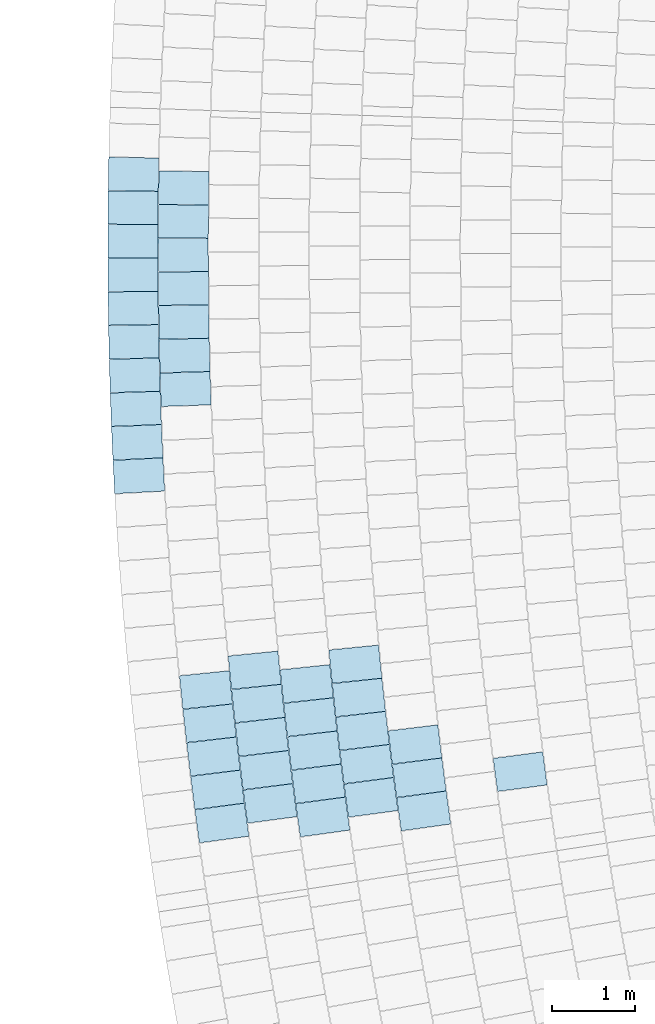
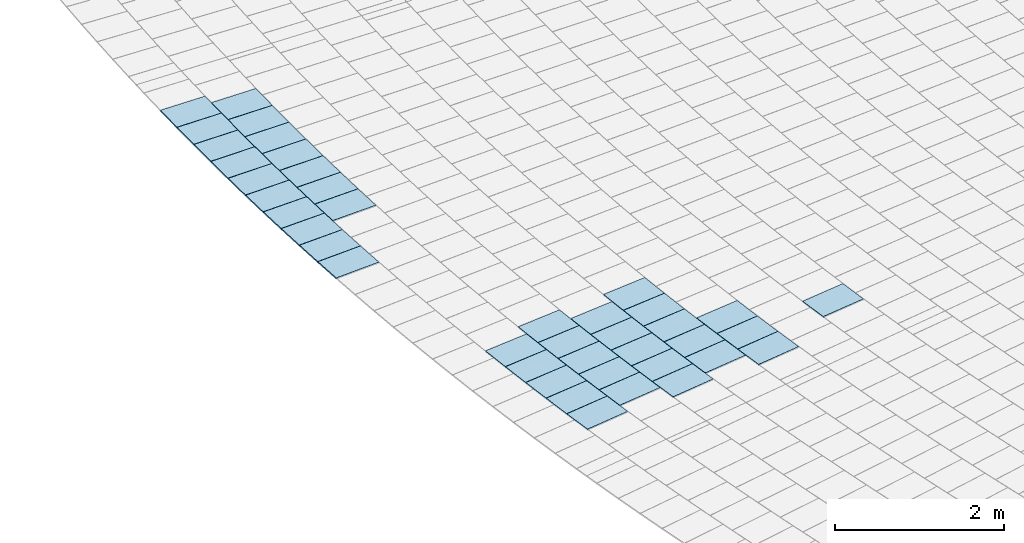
# One storey, part 78 of 438: 41 slabs.
"""IFC2X3 building model written with IfcOpenShell, lengths in millimetres."""

from ifc_helpers import new_model, entity, si_unit, converted_unit, derived_unit, direction, frame, origin, place, context, subcontext, project, spatial, polyline, outline, extrude, material, layer, layer_set, layer_usage, type_object, element, save


model = new_model("IFC2X3")

# Units and contexts
model_context = context("Model", 3, precision=0.01, world=origin(), true_north=direction((6.123031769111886e-17, 1.0)))
body_context = subcontext(model_context, "Body", "Model", "MODEL_VIEW")
ifc_project = project(units=[si_unit("LENGTHUNIT", "METRE", prefix="MILLI"), si_unit("AREAUNIT", "SQUARE_METRE"), si_unit("VOLUMEUNIT", "CUBIC_METRE"), converted_unit("PLANEANGLEUNIT", "DEGREE", entity("IfcRatioMeasure", 0.017453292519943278), si_unit("PLANEANGLEUNIT", "RADIAN"), dimensions=[0, 0, 0, 0, 0, 0, 0]), si_unit("MASSUNIT", "GRAM", prefix="KILO"), derived_unit("MASSDENSITYUNIT", [(si_unit("MASSUNIT", "GRAM", prefix="KILO"), 1), (si_unit("LENGTHUNIT", "METRE"), -3)]), derived_unit("MOMENTOFINERTIAUNIT", [(si_unit("LENGTHUNIT", "METRE"), 4)]), si_unit("TIMEUNIT", "SECOND"), si_unit("FREQUENCYUNIT", "HERTZ"), si_unit("THERMODYNAMICTEMPERATUREUNIT", "DEGREE_CELSIUS"), derived_unit("THERMALTRANSMITTANCEUNIT", [(si_unit("MASSUNIT", "GRAM", prefix="KILO"), 1), (si_unit("THERMODYNAMICTEMPERATUREUNIT", "KELVIN"), -1), (si_unit("TIMEUNIT", "SECOND"), -3)]), derived_unit("THERMALCONDUCTANCEUNIT", [(si_unit("MASSUNIT", "GRAM", prefix="KILO"), 1), (si_unit("LENGTHUNIT", "METRE"), 1), (si_unit("THERMODYNAMICTEMPERATUREUNIT", "KELVIN"), -1), (si_unit("TIMEUNIT", "SECOND"), -3)]), derived_unit("VOLUMETRICFLOWRATEUNIT", [(si_unit("LENGTHUNIT", "METRE"), 3), (si_unit("TIMEUNIT", "SECOND"), -1)]), derived_unit("MASSFLOWRATEUNIT", [(si_unit("MASSUNIT", "GRAM", prefix="KILO"), 1), (si_unit("TIMEUNIT", "SECOND"), -1)]), derived_unit("ROTATIONALFREQUENCYUNIT", [(si_unit("TIMEUNIT", "SECOND"), -1)]), si_unit("ELECTRICCURRENTUNIT", "AMPERE"), si_unit("ELECTRICVOLTAGEUNIT", "VOLT"), si_unit("POWERUNIT", "WATT"), converted_unit("FORCEUNIT", "KIP", entity("IfcRatioMeasure", 2.088543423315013e-05), si_unit("FORCEUNIT", "NEWTON"), dimensions=[1, 1, -2, 0, 0, 0, 0]), si_unit("ILLUMINANCEUNIT", "LUX"), si_unit("LUMINOUSFLUXUNIT", "LUMEN"), si_unit("LUMINOUSINTENSITYUNIT", "CANDELA"), derived_unit("USERDEFINED", [(si_unit("MASSUNIT", "GRAM", prefix="KILO"), -1), (si_unit("LENGTHUNIT", "METRE"), -2), (si_unit("TIMEUNIT", "SECOND"), 3), (si_unit("LUMINOUSFLUXUNIT", "LUMEN"), 1)]), derived_unit("USERDEFINED", [(si_unit("MASSUNIT", "GRAM", prefix="KILO"), 1), (si_unit("LENGTHUNIT", "METRE"), 3), (si_unit("TIMEUNIT", "SECOND"), -3), (si_unit("ELECTRICCURRENTUNIT", "AMPERE"), -2)]), derived_unit("USERDEFINED", [(si_unit("LENGTHUNIT", "METRE"), 2), (si_unit("TIMEUNIT", "SECOND"), -2)]), derived_unit("SOUNDPOWERUNIT", [(si_unit("MASSUNIT", "GRAM", prefix="KILO"), 1), (si_unit("LENGTHUNIT", "METRE"), 2), (si_unit("TIMEUNIT", "SECOND"), -3)]), derived_unit("SOUNDPRESSUREUNIT", [(si_unit("MASSUNIT", "GRAM", prefix="KILO"), 1), (si_unit("LENGTHUNIT", "METRE"), -1), (si_unit("TIMEUNIT", "SECOND"), -2)]), derived_unit("LINEARVELOCITYUNIT", [(si_unit("LENGTHUNIT", "METRE"), 1), (si_unit("TIMEUNIT", "SECOND"), -1)]), si_unit("PRESSUREUNIT", "PASCAL"), derived_unit("USERDEFINED", [(si_unit("LENGTHUNIT", "METRE"), -2), (si_unit("MASSUNIT", "GRAM", prefix="KILO"), 1), (si_unit("TIMEUNIT", "SECOND"), -2)]), derived_unit("LINEARFORCEUNIT", [(si_unit("MASSUNIT", "GRAM", prefix="KILO"), 1), (si_unit("LENGTHUNIT", "METRE"), 1), (si_unit("TIMEUNIT", "SECOND"), -2), (si_unit("LENGTHUNIT", "METRE"), -1)]), derived_unit("PLANARFORCEUNIT", [(si_unit("MASSUNIT", "GRAM", prefix="KILO"), 1), (si_unit("LENGTHUNIT", "METRE"), 1), (si_unit("TIMEUNIT", "SECOND"), -2), (si_unit("LENGTHUNIT", "METRE"), -2)]), derived_unit("SPECIFICHEATCAPACITYUNIT", [(si_unit("LENGTHUNIT", "METRE"), 2), (si_unit("TIMEUNIT", "SECOND"), -2), (si_unit("THERMODYNAMICTEMPERATUREUNIT", "KELVIN"), -1)]), derived_unit("VAPORPERMEABILITYUNIT", [(si_unit("TIMEUNIT", "SECOND"), 1), (si_unit("LENGTHUNIT", "METRE"), -1)]), derived_unit("DYNAMICVISCOSITYUNIT", [(si_unit("MASSUNIT", "GRAM", prefix="KILO"), 1), (si_unit("LENGTHUNIT", "METRE"), -1), (si_unit("TIMEUNIT", "SECOND"), -1)]), derived_unit("THERMALEXPANSIONCOEFFICIENTUNIT", [(si_unit("THERMODYNAMICTEMPERATUREUNIT", "KELVIN"), -1)])], contexts=[model_context])

# Site, building, storey
site_placement = place(None, frame((0.0, 0.0, 0.0), z_axis=(0.0, 0.0, 1.0), x_axis=(0.8191520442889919, 0.5735764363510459, 0.0)))
site = spatial("IfcSite", under=ifc_project, at=site_placement, Name="Default", CompositionType="ELEMENT")
building_placement = place(site_placement, origin())
building = spatial("IfcBuilding", under=site, at=building_placement, CompositionType="ELEMENT")
storey_placement = place(building_placement, origin())
storey = spatial("IfcBuildingStorey", under=building, at=storey_placement, Name="PLAN", CompositionType="ELEMENT", Elevation=0.0)

# Slabs
ifc_material = material(Name="Paint-01")
ifc_layer = layer(ifc_material, 20.00000000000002)
ifc_layer_set = layer_set([ifc_layer], Name="Floor:Slab-179:1000")
ifc_layer_usage = layer_usage(ifc_layer_set, "AXIS3", "POSITIVE", 0.0)
slab_type = type_object("IfcSlabType", Name="Floor:Slab-179:1000", PredefinedType="FLOOR", material=ifc_layer_set)
slab_1_placement = place(storey_placement, origin())
element("IfcSlab", 1, at=slab_1_placement, inside=storey, type_object=slab_type, material=ifc_layer_usage, Name="Floor:Slab-179:1000", ObjectType="Floor:Slab-179:1000", PredefinedType="FLOOR", context=body_context, shape_type="SweptSolid", body=[
    extrude(outline(polyline([(-299.99999762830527, -200.0000029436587), (300.0, -200.00000294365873), (299.999997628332, 200.00000294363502), (-300.0, 200.00000294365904), (-299.99999762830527, -200.0000029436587)])), frame((-82832.24058189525, -45851.049284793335, 520.0), z_axis=(0.0, 0.0, -1.0), x_axis=(0.8872912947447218, -0.4612094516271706, 0.0)), (0.0, 0.0, 1.0), 19.999999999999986),
])
slab_2_placement = place(storey_placement, origin())
element("IfcSlab", 2, at=slab_2_placement, inside=storey, type_object=slab_type, material=ifc_layer_usage, Name="Floor:Slab-179:1000", ObjectType="Floor:Slab-179:1000", PredefinedType="FLOOR", context=body_context, shape_type="SweptSolid", body=[
    extrude(outline(polyline([(-299.9999976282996, -200.0000029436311), (300.0, -200.00000294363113), (299.99999762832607, 200.00000294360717), (-300.0, 200.00000294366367), (-299.9999976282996, -200.0000029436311)])), frame((-83677.9896801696, -44859.880920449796, 520.0), z_axis=(0.0, 0.0, -1.0), x_axis=(0.8826521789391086, -0.4700267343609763, 0.0)), (0.0, 0.0, 1.0), 19.99999999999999),
])
slab_3_placement = place(storey_placement, origin())
element("IfcSlab", 3, at=slab_3_placement, inside=storey, type_object=slab_type, material=ifc_layer_usage, Name="Floor:Slab-179:1000", ObjectType="Floor:Slab-179:1000", PredefinedType="FLOOR", context=body_context, shape_type="SweptSolid", body=[
    extrude(outline(polyline([(-299.9999976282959, -200.00000294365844), (300.0, -200.0000029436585), (299.9999976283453, 200.00000294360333), (-300.0, 200.0000029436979), (-299.9999976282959, -200.00000294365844)])), frame((-83865.69729030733, -45215.880342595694, 520.0), z_axis=(0.0, 0.0, -1.0), x_axis=(0.8864735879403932, -0.46277918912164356, 0.0)), (0.0, 0.0, 1.0), 20.000000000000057),
])
slab_4_placement = place(storey_placement, origin())
element("IfcSlab", 4, at=slab_4_placement, inside=storey, type_object=slab_type, material=ifc_layer_usage, Name="Floor:Slab-179:1000", ObjectType="Floor:Slab-179:1000", PredefinedType="FLOOR", context=body_context, shape_type="SweptSolid", body=[
    extrude(outline(polyline([(-299.9999976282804, -200.00000294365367), (300.0, -200.00000294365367), (299.9999976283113, 200.00000294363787), (-300.0, 200.00000294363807), (-299.9999976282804, -200.00000294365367)])), frame((-84050.48181631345, -45573.405746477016, 520.0), z_axis=(0.0, 0.0, -1.0), x_axis=(0.8902354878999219, -0.4555005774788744, 0.0)), (0.0, 0.0, 1.0), 19.99999999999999),
])
slab_5_placement = place(storey_placement, origin())
element("IfcSlab", 5, at=slab_5_placement, inside=storey, type_object=slab_type, material=ifc_layer_usage, Name="Floor:Slab-179:1000", ObjectType="Floor:Slab-179:1000", PredefinedType="FLOOR", context=body_context, shape_type="SweptSolid", body=[
    extrude(outline(polyline([(-299.9999976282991, -200.00000294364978), (300.0, -200.00000294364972), (299.99999762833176, 200.00000294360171), (-300.0, 200.00000294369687), (-299.9999976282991, -200.00000294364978)])), frame((-83711.90965953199, -43659.71001154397, 520.0), z_axis=(0.0, 0.0, -1.0), x_axis=(0.872595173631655, -0.4884441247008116, 0.0)), (0.0, 0.0, 1.0), 20.000000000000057),
])
slab_6_placement = place(storey_placement, origin())
element("IfcSlab", 6, at=slab_6_placement, inside=storey, type_object=slab_type, material=ifc_layer_usage, Name="Floor:Slab-179:1000", ObjectType="Floor:Slab-179:1000", PredefinedType="FLOOR", context=body_context, shape_type="SweptSolid", body=[
    extrude(outline(polyline([(-299.9999976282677, -200.0000029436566), (300.0, -200.0000029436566), (299.99999762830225, 200.00000294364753), (-300.0, 200.00000294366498), (-299.9999976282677, -200.0000029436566)])), frame((-83907.0490529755, -44011.656316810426, 520.0), z_axis=(0.0, 0.0, -1.0), x_axis=(0.8765195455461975, -0.48136627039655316, 0.0)), (0.0, 0.0, 1.0), 19.999999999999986),
])
slab_7_placement = place(storey_placement, origin())
element("IfcSlab", 7, at=slab_7_placement, inside=storey, type_object=slab_type, material=ifc_layer_usage, Name="Floor:Slab-179:1000", ObjectType="Floor:Slab-179:1000", PredefinedType="FLOOR", context=body_context, shape_type="SweptSolid", body=[
    extrude(outline(polyline([(-299.9999976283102, -200.00000294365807), (300.0, -200.00000294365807), (299.9999976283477, 200.00000294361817), (-300.0, 200.00000294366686), (-299.9999976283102, -200.00000294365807)])), frame((-84099.33377632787, -44365.17034740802, 520.0), z_axis=(0.0, 0.0, -1.0), x_axis=(0.8803865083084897, -0.4742568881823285, 0.0)), (0.0, 0.0, 1.0), 20.000000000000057),
])
slab_8_placement = place(storey_placement, origin())
element("IfcSlab", 8, at=slab_8_placement, inside=storey, type_object=slab_type, material=ifc_layer_usage, Name="Floor:Slab-179:1000", ObjectType="Floor:Slab-179:1000", PredefinedType="FLOOR", context=body_context, shape_type="SweptSolid", body=[
    extrude(outline(polyline([(-299.99999762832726, -200.00000294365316), (300.0, -200.00000294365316), (299.9999976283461, 200.00000294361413), (-300.0, 200.0000029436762), (-299.99999762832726, -200.00000294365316)])), frame((-84475.28902448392, -45076.80886739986, 520.0), z_axis=(0.0, 0.0, -1.0), x_axis=(0.8879471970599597, -0.4599454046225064, 0.0)), (0.0, 0.0, 1.0), 20.000000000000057),
])
slab_9_placement = place(storey_placement, origin())
element("IfcSlab", 9, at=slab_9_placement, inside=storey, type_object=slab_type, material=ifc_layer_usage, Name="Floor:Slab-179:1000", ObjectType="Floor:Slab-179:1000", PredefinedType="FLOOR", context=body_context, shape_type="SweptSolid", body=[
    extrude(outline(polyline([(-299.9999976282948, -200.00000294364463), (300.0, -200.0000029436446), (299.9999976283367, 200.00000294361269), (-300.0, 200.00000294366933), (-299.9999976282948, -200.00000294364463)])), frame((-84288.75123557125, -44720.22894932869, 520.0), z_axis=(0.0, 0.0, -1.0), x_axis=(0.8841958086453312, -0.46711644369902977, 0.0)), (0.0, 0.0, 1.0), 20.000000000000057),
])
slab_10_placement = place(storey_placement, origin())
element("IfcSlab", 10, at=slab_10_placement, inside=storey, type_object=slab_type, material=ifc_layer_usage, Name="Floor:Slab-179:1000", ObjectType="Floor:Slab-179:1000", PredefinedType="FLOOR", context=body_context, shape_type="SweptSolid", body=[
    extrude(outline(polyline([(-299.9999976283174, -200.00000294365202), (300.0, -200.00000294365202), (299.9999976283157, 200.00000294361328), (-300.0, 200.000002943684), (-299.9999976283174, -200.00000294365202)])), frame((-84325.8040085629, -43518.42665008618, 520.0), z_axis=(0.0, 0.0, -1.0), x_axis=(0.8743033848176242, -0.485379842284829, 0.0)), (0.0, 0.0, 1.0), 20.000000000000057),
])
slab_11_placement = place(storey_placement, origin())
element("IfcSlab", 11, at=slab_11_placement, inside=storey, type_object=slab_type, material=ifc_layer_usage, Name="Floor:Slab-179:1000", ObjectType="Floor:Slab-179:1000", PredefinedType="FLOOR", context=body_context, shape_type="SweptSolid", body=[
    extrude(outline(polyline([(-299.99999762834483, -200.00000294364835), (300.0, -200.00000294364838), (299.9999976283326, 200.00000294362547), (-300.0, 200.00000294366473), (-299.99999762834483, -200.00000294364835)])), frame((-84710.79204723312, -44225.15285962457, 520.0), z_axis=(0.0, 0.0, -1.0), x_axis=(0.8819526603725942, -0.47133799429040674, 0.0)), (0.0, 0.0, 1.0), 20.000000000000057),
])
slab_12_placement = place(storey_placement, origin())
element("IfcSlab", 12, at=slab_12_placement, inside=storey, type_object=slab_type, material=ifc_layer_usage, Name="Floor:Slab-179:1000", ObjectType="Floor:Slab-179:1000", PredefinedType="FLOOR", context=body_context, shape_type="SweptSolid", body=[
    extrude(outline(polyline([(-299.9999976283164, -200.00000294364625), (300.0, -200.00000294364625), (299.99999762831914, 200.00000294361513), (-300.0, 200.00000294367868), (-299.9999976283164, -200.00000294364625)])), frame((-84519.71063277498, -43871.020240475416, 520.0), z_axis=(0.0, 0.0, -1.0), x_axis=(0.878156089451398, -0.47837420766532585, 0.0)), (0.0, 0.0, 1.0), 20.000000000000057),
])
slab_13_placement = place(storey_placement, origin())
element("IfcSlab", 13, at=slab_13_placement, inside=storey, type_object=slab_type, material=ifc_layer_usage, Name="Floor:Slab-179:1000", ObjectType="Floor:Slab-179:1000", PredefinedType="FLOOR", context=body_context, shape_type="SweptSolid", body=[
    extrude(outline(polyline([(-299.99999762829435, -200.00000294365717), (300.0, -200.0000029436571), (299.999997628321, 200.00000294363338), (-300.0, 200.00000294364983), (-299.99999762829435, -200.00000294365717)])), frame((-84899.0360375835, -44580.801870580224, 520.0), z_axis=(0.0, 0.0, -1.0), x_axis=(0.8856928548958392, -0.46427165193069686, 0.0)), (0.0, 0.0, 1.0), 20.000000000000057),
])
slab_14_placement = place(storey_placement, origin())
element("IfcSlab", 14, at=slab_14_placement, inside=storey, type_object=slab_type, material=ifc_layer_usage, Name="Floor:Slab-179:1000", ObjectType="Floor:Slab-179:1000", PredefinedType="FLOOR", context=body_context, shape_type="SweptSolid", body=[
    extrude(outline(polyline([(-299.9999976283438, -200.00000294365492), (300.0, -200.00000294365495), (299.9999976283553, 200.0000029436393), (-300.0, 200.00000294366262), (-299.9999976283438, -200.00000294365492)])), frame((-85084.43057084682, -44937.944539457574, 520.0), z_axis=(0.0, 0.0, -1.0), x_axis=(0.8893764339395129, -0.4571756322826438, 0.0)), (0.0, 0.0, 1.0), 20.000000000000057),
])
slab_15_placement = place(storey_placement, origin())
element("IfcSlab", 15, at=slab_15_placement, inside=storey, type_object=slab_type, material=ifc_layer_usage, Name="Floor:Slab-179:1000", ObjectType="Floor:Slab-179:1000", PredefinedType="FLOOR", context=body_context, shape_type="SweptSolid", body=[
    extrude(outline(polyline([(-299.99999762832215, -200.0000029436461), (300.0, -200.00000294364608), (299.99999762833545, 200.00000294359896), (-300.0, 200.00000294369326), (-299.99999762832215, -200.0000029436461)])), frame((-84743.67200745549, -43025.726866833, 520.0), z_axis=(0.0, 0.0, -1.0), x_axis=(0.8721224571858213, -0.48928766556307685, 0.0)), (0.0, 0.0, 1.0), 20.000000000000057),
])
slab_16_placement = place(storey_placement, origin())
element("IfcSlab", 16, at=slab_16_placement, inside=storey, type_object=slab_type, material=ifc_layer_usage, Name="Floor:Slab-179:1000", ObjectType="Floor:Slab-179:1000", PredefinedType="FLOOR", context=body_context, shape_type="SweptSolid", body=[
    extrude(outline(polyline([(-299.9999976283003, -200.00000294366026), (300.0, -200.00000294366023), (299.9999976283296, 200.00000294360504), (-300.0, 200.00000294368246), (-299.9999976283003, -200.00000294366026)])), frame((-85131.8587765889, -43730.63607929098, 520.0), z_axis=(0.0, 0.0, -1.0), x_axis=(0.8797436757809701, -0.4754482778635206, 0.0)), (0.0, 0.0, 1.0), 19.999999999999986),
])
slab_17_placement = place(storey_placement, origin())
element("IfcSlab", 17, at=slab_17_placement, inside=storey, type_object=slab_type, material=ifc_layer_usage, Name="Floor:Slab-179:1000", ObjectType="Floor:Slab-179:1000", PredefinedType="FLOOR", context=body_context, shape_type="SweptSolid", body=[
    extrude(outline(polyline([(-299.9999976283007, -200.00000294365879), (300.0, -200.00000294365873), (299.9999976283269, 200.00000294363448), (-300.0, 200.00000294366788), (-299.9999976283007, -200.00000294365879)])), frame((-84939.15753031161, -43377.414835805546, 520.0), z_axis=(0.0, 0.0, -1.0), x_axis=(0.875960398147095, -0.4823830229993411, 0.0)), (0.0, 0.0, 1.0), 20.000000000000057),
])
slab_18_placement = place(storey_placement, origin())
element("IfcSlab", 18, at=slab_18_placement, inside=storey, type_object=slab_type, material=ifc_layer_usage, Name="Floor:Slab-179:1000", ObjectType="Floor:Slab-179:1000", PredefinedType="FLOOR", context=body_context, shape_type="SweptSolid", body=[
    extrude(outline(polyline([(-299.9999976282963, -200.0000029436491), (300.0, -200.00000294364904), (299.99999762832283, 200.00000294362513), (-300.0, 200.00000294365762), (-299.9999976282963, -200.0000029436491)])), frame((-85321.76372098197, -44085.3685549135, 520.0), z_axis=(0.0, 0.0, -1.0), x_axis=(0.883472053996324, -0.46848386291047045, 0.0)), (0.0, 0.0, 1.0), 19.999999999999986),
])
slab_19_placement = place(storey_placement, origin())
element("IfcSlab", 19, at=slab_19_placement, inside=storey, type_object=slab_type, material=ifc_layer_usage, Name="Floor:Slab-179:1000", ObjectType="Floor:Slab-179:1000", PredefinedType="FLOOR", context=body_context, shape_type="SweptSolid", body=[
    extrude(outline(polyline([(-299.99999762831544, -200.0000029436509), (300.0, -200.0000029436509), (299.99999762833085, 200.00000294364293), (-300.0, 200.00000294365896), (-299.99999762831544, -200.0000029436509)])), frame((-85508.86051268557, -44441.59012599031, 520.0), z_axis=(0.0, 0.0, -1.0), x_axis=(0.8871453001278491, -0.46149021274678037, 0.0)), (0.0, 0.0, 1.0), 20.000000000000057),
])
slab_20_placement = place(storey_placement, origin())
element("IfcSlab", 20, at=slab_20_placement, inside=storey, type_object=slab_type, material=ifc_layer_usage, Name="Floor:Slab-179:1000", ObjectType="Floor:Slab-179:1000", PredefinedType="FLOOR", context=body_context, shape_type="SweptSolid", body=[
    extrude(outline(polyline([(-300.0, -200.0000029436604), (299.9999976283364, -200.0000029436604), (300.0, 200.0000029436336), (-299.999997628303, 200.00000294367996), (-300.0, -200.0000029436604)])), frame((-83487.1786597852, -39784.695662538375, 520.0), z_axis=(0.0, 0.0, -1.0), x_axis=(0.8375060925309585, -0.5464279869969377, 0.0)), (0.0, 0.0, 1.0), 20.000000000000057),
])
slab_21_placement = place(storey_placement, origin())
element("IfcSlab", 21, at=slab_21_placement, inside=storey, type_object=slab_type, material=ifc_layer_usage, Name="Floor:Slab-179:1000", ObjectType="Floor:Slab-179:1000", PredefinedType="FLOOR", context=body_context, shape_type="SweptSolid", body=[
    extrude(outline(polyline([(-300.0, -200.0000029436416), (299.9999976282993, -200.00000294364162), (300.0, 200.00000294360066), (-299.99999762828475, 200.00000294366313), (-300.0, -200.0000029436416)])), frame((-83042.23618881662, -39114.23121845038, 520.0), z_axis=(0.0, 0.0, -1.0), x_axis=(0.8288731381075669, -0.5594366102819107, 0.0)), (0.0, 0.0, 1.0), 19.99999999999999),
])
slab_22_placement = place(storey_placement, origin())
element("IfcSlab", 22, at=slab_22_placement, inside=storey, type_object=slab_type, material=ifc_layer_usage, Name="Floor:Slab-179:1000", ObjectType="Floor:Slab-179:1000", PredefinedType="FLOOR", context=body_context, shape_type="SweptSolid", body=[
    extrude(outline(polyline([(-300.0, -200.0000029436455), (299.999997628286, -200.00000294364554), (300.0, 200.0000029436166), (-299.9999976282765, 200.00000294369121), (-300.0, -200.0000029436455)])), frame((-83266.01590293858, -39448.595090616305, 520.0), z_axis=(0.0, 0.0, -1.0), x_axis=(0.8332150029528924, -0.5529491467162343, 0.0)), (0.0, 0.0, 1.0), 19.999999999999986),
])
slab_23_placement = place(storey_placement, origin())
element("IfcSlab", 23, at=slab_23_placement, inside=storey, type_object=slab_type, material=ifc_layer_usage, Name="Floor:Slab-179:1000", ObjectType="Floor:Slab-179:1000", PredefinedType="FLOOR", context=body_context, shape_type="SweptSolid", body=[
    extrude(outline(polyline([(-300.0, -200.00000294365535), (299.9999976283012, -200.00000294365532), (300.0, 200.0000029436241), (-299.9999976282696, 200.00000294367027), (-300.0, -200.00000294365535)])), frame((-82586.88059501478, -38450.79496947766, 520.0), z_axis=(0.0, 0.0, -1.0), x_axis=(0.8200381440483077, -0.5723088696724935, 0.0)), (0.0, 0.0, 1.0), 20.000000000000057),
])
slab_24_placement = place(storey_placement, origin())
element("IfcSlab", 24, at=slab_24_placement, inside=storey, type_object=slab_type, material=ifc_layer_usage, Name="Floor:Slab-179:1000", ObjectType="Floor:Slab-179:1000", PredefinedType="FLOOR", context=body_context, shape_type="SweptSolid", body=[
    extrude(outline(polyline([(-300.0, -200.00000294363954), (299.99999762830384, -200.00000294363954), (300.0, 200.000002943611), (-299.9999976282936, 200.00000294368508), (-300.0, -200.00000294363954)])), frame((-82815.85315432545, -38781.62442183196, 520.0), z_axis=(0.0, 0.0, -1.0), x_axis=(0.8244807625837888, -0.5658899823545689, 0.0)), (0.0, 0.0, 1.0), 20.000000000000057),
])
slab_25_placement = place(storey_placement, origin())
element("IfcSlab", 25, at=slab_25_placement, inside=storey, type_object=slab_type, material=ifc_layer_usage, Name="Floor:Slab-179:1000", ObjectType="Floor:Slab-179:1000", PredefinedType="FLOOR", context=body_context, shape_type="SweptSolid", body=[
    extrude(outline(polyline([(-300.0, -200.00000294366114), (299.99999762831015, -200.00000294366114), (300.0, 200.00000294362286), (-299.99999762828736, 200.00000294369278), (-300.0, -200.00000294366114)])), frame((-82121.22287229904, -37794.54862965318, 520.0), z_axis=(0.0, 0.0, -1.0), x_axis=(0.8110032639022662, -0.5850416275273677, 0.0)), (0.0, 0.0, 1.0), 20.000000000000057),
])
slab_26_placement = place(storey_placement, origin())
element("IfcSlab", 26, at=slab_26_placement, inside=storey, type_object=slab_type, material=ifc_layer_usage, Name="Floor:Slab-179:1000", ObjectType="Floor:Slab-179:1000", PredefinedType="FLOOR", context=body_context, shape_type="SweptSolid", body=[
    extrude(outline(polyline([(-300.0, -200.00000294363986), (299.9999976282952, -200.00000294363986), (300.0, 200.00000294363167), (-299.99999762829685, 200.00000294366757), (-300.0, -200.00000294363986)])), frame((-82355.33246423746, -38121.763021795, 520.0), z_axis=(0.0, 0.0, -1.0), x_axis=(0.8155455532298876, -0.5786928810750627, 0.0)), (0.0, 0.0, 1.0), 19.99999999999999),
])
slab_27_placement = place(storey_placement, origin())
element("IfcSlab", 27, at=slab_27_placement, inside=storey, type_object=slab_type, material=ifc_layer_usage, Name="Floor:Slab-179:1000", ObjectType="Floor:Slab-179:1000", PredefinedType="FLOOR", context=body_context, shape_type="SweptSolid", body=[
    extrude(outline(polyline([(-299.9999976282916, -200.00000294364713), (300.0, -200.00000294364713), (299.9999976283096, 200.00000294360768), (-300.0, 200.00000294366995), (-299.9999976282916, -200.00000294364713)])), frame((-85551.98852332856, -43236.66314103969, 520.0), z_axis=(0.0, 0.0, -1.0), x_axis=(0.8775683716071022, -0.4794515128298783, 0.0)), (0.0, 0.0, 1.0), 20.000000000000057),
])
slab_28_placement = place(storey_placement, origin())
element("IfcSlab", 28, at=slab_28_placement, inside=storey, type_object=slab_type, material=ifc_layer_usage, Name="Floor:Slab-179:1000", ObjectType="Floor:Slab-179:1000", PredefinedType="FLOOR", context=body_context, shape_type="SweptSolid", body=[
    extrude(outline(polyline([(-299.9999976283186, -200.0000029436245), (300.0, -200.00000294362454), (299.99999762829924, 200.00000294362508), (-300.0, 200.00000294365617), (-299.9999976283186, -200.0000029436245)])), frame((-85743.51089867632, -43590.49324038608, 520.0), z_axis=(0.0, 0.0, -1.0), x_axis=(0.8812843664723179, -0.47258635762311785, 0.0)), (0.0, 0.0, 1.0), 19.99999999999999),
])
slab_29_placement = place(storey_placement, origin())
element("IfcSlab", 29, at=slab_29_placement, inside=storey, type_object=slab_type, material=ifc_layer_usage, Name="Floor:Slab-179:1000", ObjectType="Floor:Slab-179:1000", PredefinedType="FLOOR", context=body_context, shape_type="SweptSolid", body=[
    extrude(outline(polyline([(-299.99999762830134, -200.00000294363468), (300.0, -200.0000029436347), (299.9999976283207, 200.0000029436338), (-300.0, 200.00000294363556), (-299.99999762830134, -200.00000294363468)])), frame((-85357.70988587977, -42884.33890046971, 520.0), z_axis=(0.0, 0.0, -1.0), x_axis=(0.8737988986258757, -0.4862874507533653, 0.0)), (0.0, 0.0, 1.0), 20.000000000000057),
])
slab_30_placement = place(storey_placement, origin())
element("IfcSlab", 30, at=slab_30_placement, inside=storey, type_object=slab_type, material=ifc_layer_usage, Name="Floor:Slab-179:1000", ObjectType="Floor:Slab-179:1000", PredefinedType="FLOOR", context=body_context, shape_type="SweptSolid", body=[
    extrude(outline(polyline([(-299.9999976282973, -200.00000294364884), (300.0, -200.00000294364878), (299.9999976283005, 200.00000294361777), (-300.0, 200.0000029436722), (-299.9999976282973, -200.00000294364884)])), frame((-85932.26534074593, -43945.80763646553, 520.0), z_axis=(0.0, 0.0, -1.0), x_axis=(0.8849466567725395, -0.46569240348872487, 0.0)), (0.0, 0.0, 1.0), 19.999999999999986),
])
slab_31_placement = place(storey_placement, origin())
element("IfcSlab", 31, at=slab_31_placement, inside=storey, type_object=slab_type, material=ifc_layer_usage, Name="Floor:Slab-179:1000", ObjectType="Floor:Slab-179:1000", PredefinedType="FLOOR", context=body_context, shape_type="SweptSolid", body=[
    extrude(outline(polyline([(-299.99999762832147, -200.00000294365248), (300.0, -200.00000294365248), (299.99999762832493, 200.00000294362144), (-300.0, 200.00000294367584), (-299.99999762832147, -200.00000294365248)])), frame((-86118.24034703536, -44302.584676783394, 520.0), z_axis=(0.0, 0.0, -1.0), x_axis=(0.8885550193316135, -0.45877007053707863, 0.0)), (0.0, 0.0, 1.0), 19.999999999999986),
])
slab_32_placement = place(storey_placement, origin())
element("IfcSlab", 32, at=slab_32_placement, inside=storey, type_object=slab_type, material=ifc_layer_usage, Name="Floor:Slab-179:1000", ObjectType="Floor:Slab-179:1000", PredefinedType="FLOOR", context=body_context, shape_type="SweptSolid", body=[
    extrude(outline(polyline([(-300.0, -200.0000029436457), (299.9999976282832, -200.00000294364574), (300.0, 200.0000029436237), (-299.99999762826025, 200.0000029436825), (-300.0, -200.0000029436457)])), frame((-84544.11163426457, -40315.8006890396, 520.0), z_axis=(0.0, 0.0, -1.0), x_axis=(0.8480582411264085, -0.5299030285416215, 0.0)), (0.0, 0.0, 1.0), 20.000000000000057),
])
slab_33_placement = place(storey_placement, origin())
element("IfcSlab", 33, at=slab_33_placement, inside=storey, type_object=slab_type, material=ifc_layer_usage, Name="Floor:Slab-179:1000", ObjectType="Floor:Slab-179:1000", PredefinedType="FLOOR", context=body_context, shape_type="SweptSolid", body=[
    extrude(outline(polyline([(-300.0, -200.00000294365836), (299.9999976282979, -200.00000294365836), (300.0, 200.00000294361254), (-299.9999976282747, 200.0000029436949), (-300.0, -200.00000294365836)])), frame((-84329.61092482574, -39975.44194835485, 520.0), z_axis=(0.0, 0.0, -1.0), x_axis=(0.8439446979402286, -0.5364301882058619, 0.0)), (0.0, 0.0, 1.0), 20.000000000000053),
])
slab_34_placement = place(storey_placement, origin())
element("IfcSlab", 34, at=slab_34_placement, inside=storey, type_object=slab_type, material=ifc_layer_usage, Name="Floor:Slab-179:1000", ObjectType="Floor:Slab-179:1000", PredefinedType="FLOOR", context=body_context, shape_type="SweptSolid", body=[
    extrude(outline(polyline([(-300.0, -200.00000294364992), (299.9999976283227, -200.00000294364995), (300.0, 200.00000294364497), (-299.9999976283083, 200.0000029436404), (-300.0, -200.00000294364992)])), frame((-83892.76378468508, -39299.73975908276, 520.0), z_axis=(0.0, 0.0, -1.0), x_axis=(0.835567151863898, -0.5493883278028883, 0.0)), (0.0, 0.0, 1.0), 20.000000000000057),
])
slab_35_placement = place(storey_placement, origin())
element("IfcSlab", 35, at=slab_35_placement, inside=storey, type_object=slab_type, material=ifc_layer_usage, Name="Floor:Slab-179:1000", ObjectType="Floor:Slab-179:1000", PredefinedType="FLOOR", context=body_context, shape_type="SweptSolid", body=[
    extrude(outline(polyline([(-300.0, -200.00000294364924), (299.9999976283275, -200.0000029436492), (300.0, 200.00000294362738), (-299.999997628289, 200.00000294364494), (-300.0, -200.00000294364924)])), frame((-84112.49066693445, -39636.74825144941, 520.0), z_axis=(0.0, 0.0, -1.0), x_axis=(0.8397809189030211, -0.5429254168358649, 0.0)), (0.0, 0.0, 1.0), 20.000000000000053),
])
slab_36_placement = place(storey_placement, origin())
element("IfcSlab", 36, at=slab_36_placement, inside=storey, type_object=slab_type, material=ifc_layer_usage, Name="Floor:Slab-179:1000", ObjectType="Floor:Slab-179:1000", PredefinedType="FLOOR", context=body_context, shape_type="SweptSolid", body=[
    extrude(outline(polyline([(-300.0, -200.00000294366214), (299.9999976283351, -200.00000294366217), (300.0, 200.00000294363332), (-299.99999762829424, 200.00000294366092), (-300.0, -200.00000294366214)])), frame((-83670.44335733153, -38964.43653170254, 520.0), z_axis=(0.0, 0.0, -1.0), x_axis=(0.8313036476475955, -0.5558185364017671, 0.0)), (0.0, 0.0, 1.0), 20.000000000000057),
])
slab_37_placement = place(storey_placement, origin())
element("IfcSlab", 37, at=slab_37_placement, inside=storey, type_object=slab_type, material=ifc_layer_usage, Name="Floor:Slab-179:1000", ObjectType="Floor:Slab-179:1000", PredefinedType="FLOOR", context=body_context, shape_type="SweptSolid", body=[
    extrude(outline(polyline([(-300.0, -200.00000294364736), (299.9999976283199, -200.00000294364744), (300.0, 200.0000029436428), (-299.99999762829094, 200.00000294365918), (-300.0, -200.00000294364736)])), frame((-83445.54261850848, -38630.858528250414, 520.0), z_axis=(0.0, 0.0, -1.0), x_axis=(0.8269906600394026, -0.562215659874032, 0.0)), (0.0, 0.0, 1.0), 19.999999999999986),
])
slab_38_placement = place(storey_placement, origin())
element("IfcSlab", 38, at=slab_38_placement, inside=storey, type_object=slab_type, material=ifc_layer_usage, Name="Floor:Slab-179:1000", ObjectType="Floor:Slab-179:1000", PredefinedType="FLOOR", context=body_context, shape_type="SweptSolid", body=[
    extrude(outline(polyline([(-300.0, -200.0000029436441), (299.9999976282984, -200.0000029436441), (300.0, 200.00000294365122), (-299.999997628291, 200.00000294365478), (-300.0, -200.0000029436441)])), frame((-83218.07495544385, -38299.02560497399, 520.0), z_axis=(0.0, 0.0, -1.0), x_axis=(0.8226284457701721, -0.5685793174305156, 0.0)), (0.0, 0.0, 1.0), 20.000000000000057),
])
slab_39_placement = place(storey_placement, origin())
element("IfcSlab", 39, at=slab_39_placement, inside=storey, type_object=slab_type, material=ifc_layer_usage, Name="Floor:Slab-179:1000", ObjectType="Floor:Slab-179:1000", PredefinedType="FLOOR", context=body_context, shape_type="SweptSolid", body=[
    extrude(outline(polyline([(-300.0, -200.00000294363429), (299.9999976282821, -200.00000294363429), (300.0, 200.00000294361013), (-299.99999762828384, 200.00000294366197), (-300.0, -200.00000294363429)])), frame((-82988.05390816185, -37968.95751424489, 520.0), z_axis=(0.0, 0.0, -1.0), x_axis=(0.8182172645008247, -0.574909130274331, 0.0)), (0.0, 0.0, 1.0), 20.000000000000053),
])
slab_40_placement = place(storey_placement, origin())
element("IfcSlab", 40, at=slab_40_placement, inside=storey, type_object=slab_type, material=ifc_layer_usage, Name="Floor:Slab-179:1000", ObjectType="Floor:Slab-179:1000", PredefinedType="FLOOR", context=body_context, shape_type="SweptSolid", body=[
    extrude(outline(polyline([(-300.0, -200.0000029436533), (299.9999976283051, -200.0000029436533), (300.0, 200.00000294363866), (-299.9999976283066, 200.00000294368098), (-300.0, -200.0000029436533)])), frame((-82755.49316867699, -37640.67390338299, 520.0), z_axis=(0.0, 0.0, -1.0), x_axis=(0.81375737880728, -0.5812047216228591, 0.0)), (0.0, 0.0, 1.0), 20.000000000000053),
])
slab_41_placement = place(storey_placement, origin())
element("IfcSlab", 41, at=slab_41_placement, inside=storey, type_object=slab_type, material=ifc_layer_usage, Name="Floor:Slab-179:1000", ObjectType="Floor:Slab-179:1000", PredefinedType="FLOOR", context=body_context, shape_type="SweptSolid", body=[
    extrude(outline(polyline([(-300.0, -200.0000029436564), (299.999997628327, -200.00000294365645), (300.0, 200.0000029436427), (-299.9999976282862, 200.0000029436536), (-300.0, -200.0000029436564)])), frame((-82520.40658017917, -37314.1943134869, 520.0), z_axis=(0.0, 0.0, -1.0), x_axis=(0.8092490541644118, -0.5874657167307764, 0.0)), (0.0, 0.0, 1.0), 20.000000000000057),
])

save(model, "model.ifc")
